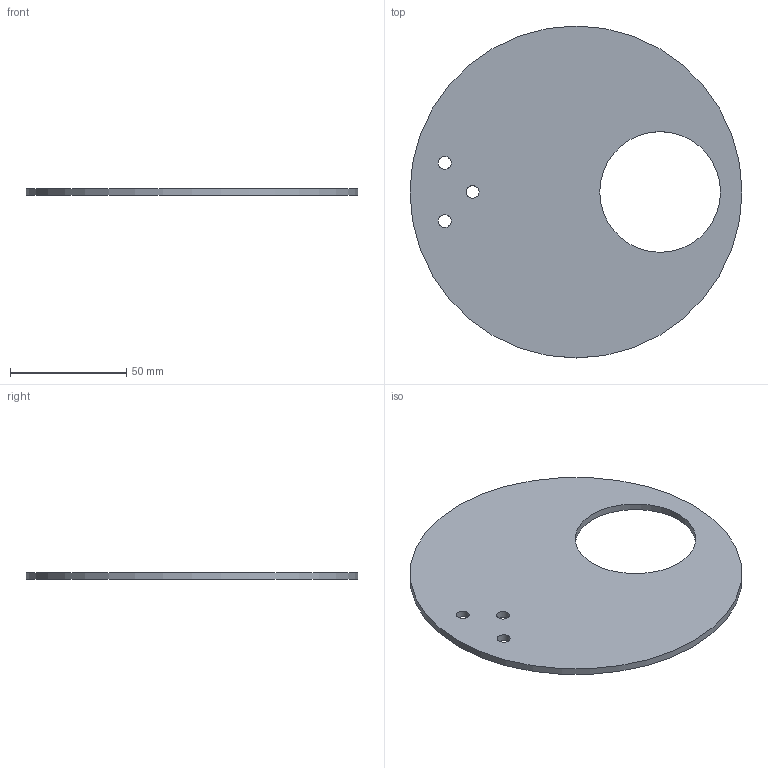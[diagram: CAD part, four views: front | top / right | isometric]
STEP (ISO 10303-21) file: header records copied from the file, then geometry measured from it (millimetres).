
FILE_DESCRIPTION( ( 'Unknown' ), '1' );
FILE_NAME( 'F:/navkite transat/construction/2016/3D ET ASSEMBLAGES/self tailing/WI 15.stp', 'Unknown', ( 'GMA' ), ( 'Unknown' ), 'XStep 1.0', 'Unknown', ' ' );
FILE_SCHEMA( ( 'automotive_design' ) );
Length unit declared in the file: millimetre
Products named in the file (1): 1
Bounding box: 143 x 143 x 3 mm (x, y, z)
Volume: 41596.8 mm3; surface area: 29724.6 mm2
Topology: 1 solids, 1 shells, 7 faces, 18 edges, 13 vertices
Faces by surface type: cylinder 5, plane 2
Full cylindrical faces by diameter (mm): 5.5 x3, 52 x1, 143 x1
Entity records: 262 total; most frequent: DIRECTION 36, CARTESIAN_POINT 28, EDGE_LOOP 20, ORIENTED_EDGE 20, AXIS2_PLACEMENT_3D 18, FACE_OUTER_BOUND 12, EDGE_CURVE 10, VERTEX_POINT 10
